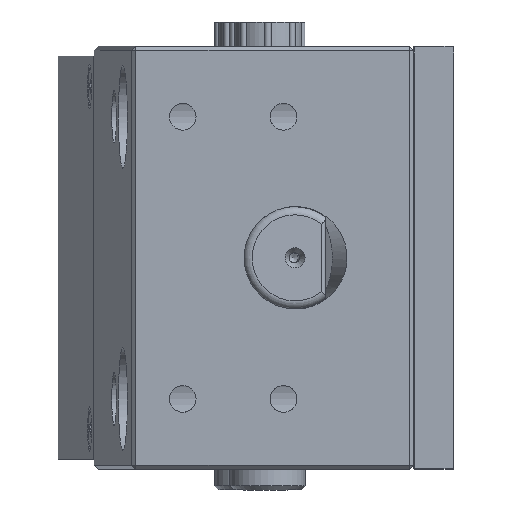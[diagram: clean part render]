
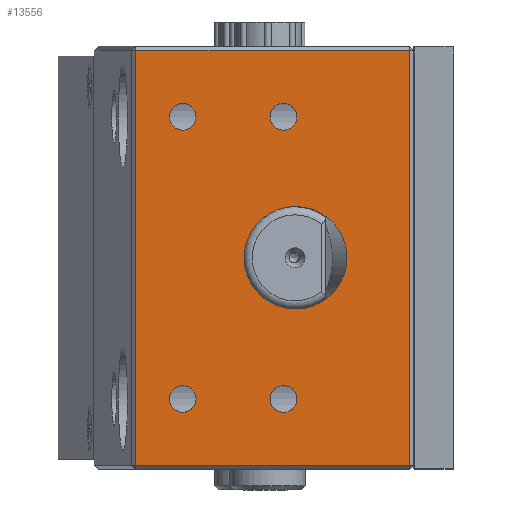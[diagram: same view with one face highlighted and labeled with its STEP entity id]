
A CAD part, left-side view. The second image highlights one B-rep face of the part: STEP entity #13556.
In plain terms, the highlighted planar face has unit normal (-1, 0, 0).
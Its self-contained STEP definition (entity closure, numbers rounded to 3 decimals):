
#303=ELLIPSE('',#14382,12.764,12.715);
#559=CIRCLE('',#14383,3.324);
#560=CIRCLE('',#14384,3.324);
#561=CIRCLE('',#14385,3.324);
#562=CIRCLE('',#14386,3.324);
#925=FACE_BOUND('',#2885,.T.);
#926=FACE_BOUND('',#2886,.T.);
#927=FACE_BOUND('',#2887,.T.);
#928=FACE_BOUND('',#2888,.T.);
#929=FACE_BOUND('',#2889,.T.);
#1975=FACE_OUTER_BOUND('',#2884,.T.);
#2884=EDGE_LOOP('',(#10594,#10595,#10596,#10597));
#2885=EDGE_LOOP('',(#10598));
#2886=EDGE_LOOP('',(#10599));
#2887=EDGE_LOOP('',(#10600));
#2888=EDGE_LOOP('',(#10601));
#2889=EDGE_LOOP('',(#10602));
#4264=LINE('',#21307,#5391);
#4305=LINE('',#21395,#5432);
#4307=LINE('',#21399,#5434);
#4309=LINE('',#21402,#5436);
#5391=VECTOR('',#16209,103.);
#5432=VECTOR('',#16292,67.935);
#5434=VECTOR('',#16298,103.);
#5436=VECTOR('',#16302,67.935);
#6490=VERTEX_POINT('',#21283);
#6493=VERTEX_POINT('',#21300);
#6495=VERTEX_POINT('',#21312);
#6496=VERTEX_POINT('',#21316);
#6512=VERTEX_POINT('',#21406);
#6513=VERTEX_POINT('',#21408);
#6514=VERTEX_POINT('',#21410);
#6515=VERTEX_POINT('',#21412);
#6516=VERTEX_POINT('',#21414);
#8011=EDGE_CURVE('',#6490,#6493,#4264,.T.);
#8054=EDGE_CURVE('',#6493,#6496,#4305,.T.);
#8056=EDGE_CURVE('',#6496,#6495,#4307,.T.);
#8058=EDGE_CURVE('',#6495,#6490,#4309,.T.);
#8060=EDGE_CURVE('',#6512,#6512,#303,.T.);
#8061=EDGE_CURVE('',#6513,#6513,#559,.T.);
#8062=EDGE_CURVE('',#6514,#6514,#560,.T.);
#8063=EDGE_CURVE('',#6515,#6515,#561,.T.);
#8064=EDGE_CURVE('',#6516,#6516,#562,.T.);
#10594=ORIENTED_EDGE('',*,*,#8011,.F.);
#10595=ORIENTED_EDGE('',*,*,#8058,.F.);
#10596=ORIENTED_EDGE('',*,*,#8056,.F.);
#10597=ORIENTED_EDGE('',*,*,#8054,.F.);
#10598=ORIENTED_EDGE('',*,*,#8060,.T.);
#10599=ORIENTED_EDGE('',*,*,#8061,.T.);
#10600=ORIENTED_EDGE('',*,*,#8062,.T.);
#10601=ORIENTED_EDGE('',*,*,#8063,.T.);
#10602=ORIENTED_EDGE('',*,*,#8064,.T.);
#12995=PLANE('',#14381);
#13556=ADVANCED_FACE('',(#1975,#925,#926,#927,#928,#929),#12995,.T.);
#14381=AXIS2_PLACEMENT_3D('',#21405,#16306,#16307);
#14382=AXIS2_PLACEMENT_3D('',#21407,#16308,#16309);
#14383=AXIS2_PLACEMENT_3D('',#21409,#16310,#16311);
#14384=AXIS2_PLACEMENT_3D('',#21411,#16312,#16313);
#14385=AXIS2_PLACEMENT_3D('',#21413,#16314,#16315);
#14386=AXIS2_PLACEMENT_3D('',#21415,#16316,#16317);
#16209=DIRECTION('',(0.,0.,1.));
#16292=DIRECTION('',(0.,-1.,0.));
#16298=DIRECTION('',(0.,0.,-1.));
#16302=DIRECTION('',(0.,1.,0.));
#16306=DIRECTION('center_axis',(-1.,0.,0.));
#16307=DIRECTION('ref_axis',(0.,0.,1.));
#16308=DIRECTION('center_axis',(1.,0.,0.));
#16309=DIRECTION('ref_axis',(0.,-1.,0.));
#16310=DIRECTION('center_axis',(1.,0.,0.));
#16311=DIRECTION('ref_axis',(0.,0.,1.));
#16312=DIRECTION('center_axis',(1.,0.,0.));
#16313=DIRECTION('ref_axis',(0.,0.,1.));
#16314=DIRECTION('center_axis',(1.,0.,0.));
#16315=DIRECTION('ref_axis',(0.,0.,1.));
#16316=DIRECTION('center_axis',(1.,0.,0.));
#16317=DIRECTION('ref_axis',(0.,0.,1.));
#21283=CARTESIAN_POINT('',(0.,39.635,-51.5));
#21300=CARTESIAN_POINT('',(0.,39.635,51.5));
#21307=CARTESIAN_POINT('',(0.,39.635,0.));
#21312=CARTESIAN_POINT('',(0.,-28.3,-51.5));
#21316=CARTESIAN_POINT('',(0.,-28.3,51.5));
#21395=CARTESIAN_POINT('',(0.,-10.742,51.5));
#21399=CARTESIAN_POINT('',(0.,-28.3,0.));
#21402=CARTESIAN_POINT('',(0.,-10.742,-51.5));
#21405=CARTESIAN_POINT('Origin',(0.,-29.3,0.));
#21406=CARTESIAN_POINT('',(0.,12.764,0.));
#21407=CARTESIAN_POINT('Origin',(0.,0.,0.));
#21408=CARTESIAN_POINT('',(0.,3.,-31.677));
#21409=CARTESIAN_POINT('Origin',(0.,3.,-35.));
#21410=CARTESIAN_POINT('',(0.,28.,-31.677));
#21411=CARTESIAN_POINT('Origin',(0.,28.,-35.));
#21412=CARTESIAN_POINT('',(0.,3.,38.324));
#21413=CARTESIAN_POINT('Origin',(0.,3.,35.));
#21414=CARTESIAN_POINT('',(0.,28.,38.324));
#21415=CARTESIAN_POINT('Origin',(0.,28.,35.));
